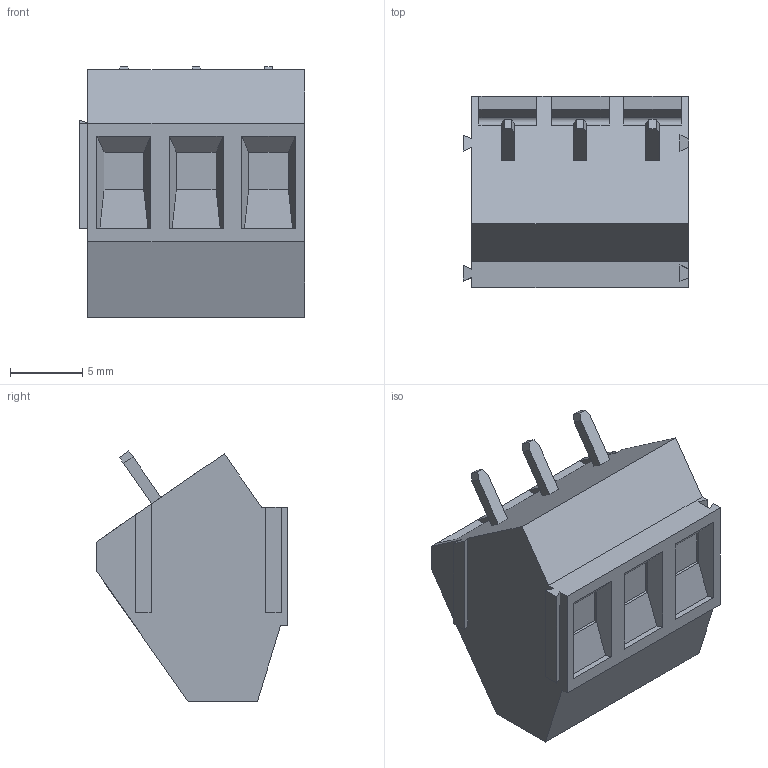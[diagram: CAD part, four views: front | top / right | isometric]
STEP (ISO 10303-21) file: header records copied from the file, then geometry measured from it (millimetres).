
FILE_DESCRIPTION (( 'STEP AP203' ), '1' );
FILE_NAME ('BR1003V.STEP', '2020-03-18T03:28:41', ( '' ), ( '' ), 'SwSTEP 2.0', 'SolidWorks 2019', '' );
FILE_SCHEMA (( 'CONFIG_CONTROL_DESIGN' ));
Length unit declared in the file: millimetre
Products named in the file (1): BR1003V
Bounding box: 15.58 x 13.25 x 17.3 mm (x, y, z)
Volume: 1974.3 mm3; surface area: 1685.7 mm2
Topology: 1 solids, 1 shells, 210 faces, 534 edges, 338 vertices
Faces by surface type: plane 150, cylinder 30, cone 18, torus 12
Entity records: 6383 total; most frequent: CARTESIAN_POINT 1191, ORIENTED_EDGE 1068, DIRECTION 1040, EDGE_CURVE 534, LINE 426, VECTOR 426, VERTEX_POINT 338, AXIS2_PLACEMENT_3D 307
